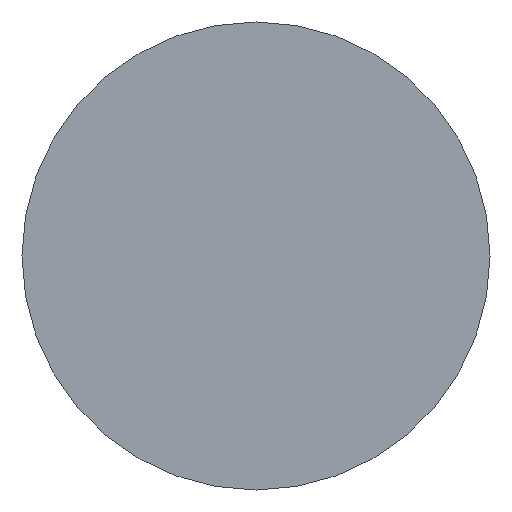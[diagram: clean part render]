
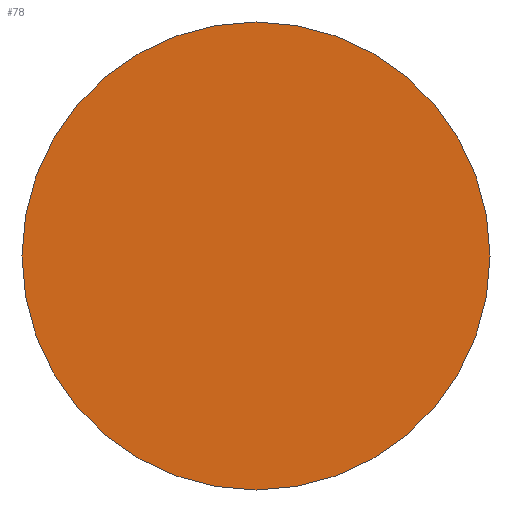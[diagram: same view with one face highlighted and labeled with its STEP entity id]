
A CAD part, left-side view. The second image highlights one B-rep face of the part: STEP entity #78.
In plain terms, the highlighted free-form (B-spline) face has degree [1, 1] with [2, 2] control points.
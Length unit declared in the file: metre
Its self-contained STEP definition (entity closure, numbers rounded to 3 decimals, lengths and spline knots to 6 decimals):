
#78 = ADVANCED_FACE( '', ( #141 ), #142, .F. );
#141 = FACE_OUTER_BOUND( '', #268, .T. );
#142 = B_SPLINE_SURFACE_WITH_KNOTS( '', 1, 1, ( ( #269, #270 ), ( #271, #272 ) ), .UNSPECIFIED., .F., .F., .F., ( 2, 2 ), ( 2, 2 ), ( 0., 1. ), ( 0., 1. ), .UNSPECIFIED. );
#268 = EDGE_LOOP( '', ( #1049, #1050 ) );
#269 = CARTESIAN_POINT( '', ( 0., -0.015686, 0.015686 ) );
#270 = CARTESIAN_POINT( '', ( 0., 0.015686, 0.015686 ) );
#271 = CARTESIAN_POINT( '', ( 0., -0.015686, -0.015686 ) );
#272 = CARTESIAN_POINT( '', ( 0., 0.015686, -0.015686 ) );
#1049 = ORIENTED_EDGE( '', *, *, #1389, .F. );
#1050 = ORIENTED_EDGE( '', *, *, #1390, .F. );
#1389 = EDGE_CURVE( '', #1509, #1510, #1511, .T. );
#1390 = EDGE_CURVE( '', #1510, #1509, #1512, .T. );
#1509 = VERTEX_POINT( '', #1691 );
#1510 = VERTEX_POINT( '', #1692 );
#1511 = CIRCLE( '', #1693, 0.0155 );
#1512 = CIRCLE( '', #1694, 0.0155 );
#1691 = CARTESIAN_POINT( '', ( 0., 0., 0.0155 ) );
#1692 = CARTESIAN_POINT( '', ( 0., 0., -0.0155 ) );
#1693 = AXIS2_PLACEMENT_3D( '', #2181, #2182, #2183 );
#1694 = AXIS2_PLACEMENT_3D( '', #2184, #2185, #2186 );
#2181 = CARTESIAN_POINT( '', ( 0., 0., 0. ) );
#2182 = DIRECTION( '', ( 1., 0., 0. ) );
#2183 = DIRECTION( '', ( 0., 0., -1. ) );
#2184 = CARTESIAN_POINT( '', ( 0., 0., 0. ) );
#2185 = DIRECTION( '', ( 1., 0., 0. ) );
#2186 = DIRECTION( '', ( 0., 0., -1. ) );
